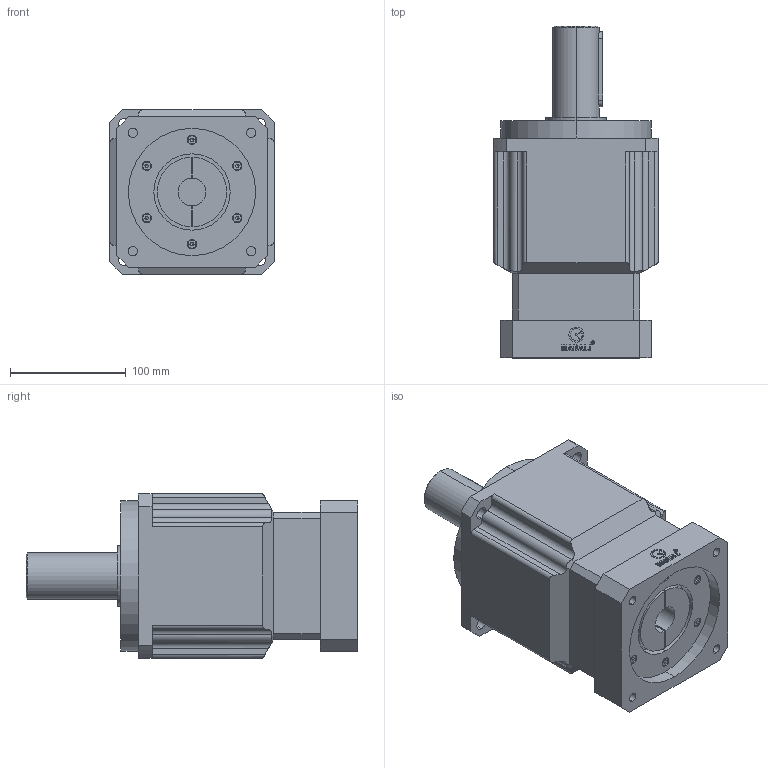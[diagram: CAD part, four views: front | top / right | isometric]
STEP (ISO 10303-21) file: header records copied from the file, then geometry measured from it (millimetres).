
FILE_DESCRIPTION (( 'STEP AP214' ), '1' );
FILE_NAME ('MAB-142-L2.step', '2020-06-27T09:16:53', ( '' ), ( '' ), 'SwSTEP 2.0', 'SolidWorks 2016', '' );
FILE_SCHEMA (( 'AUTOMOTIVE_DESIGN' ));
Length unit declared in the file: millimetre
Products named in the file (1): MAB-142-L2
Bounding box: 142 x 287 x 142 mm (x, y, z)
Surface area: 178367.6 mm2 (no closed solid volume)
Topology: 0 solids, 2 shells, 483 faces, 1287 edges, 841 vertices
Faces by surface type: plane 280, cylinder 108, bspline 67, cone 28
Entity records: 20810 total; most frequent: CARTESIAN_POINT 3919, ORIENTED_EDGE 2530, DIRECTION 2125, EDGE_CURVE 1273, VECTOR 847, LINE 847, VERTEX_POINT 841, AXIS2_PLACEMENT_3D 639
